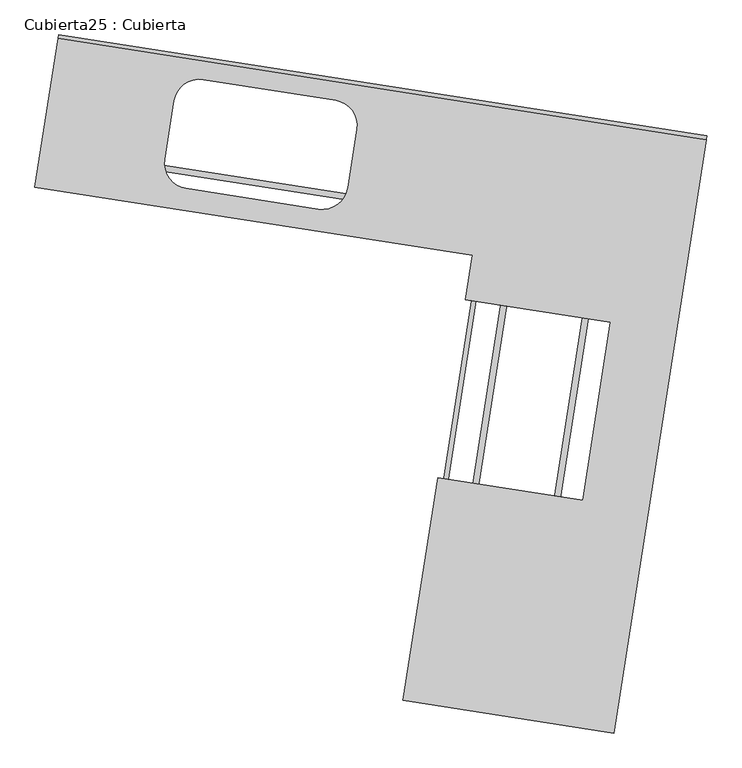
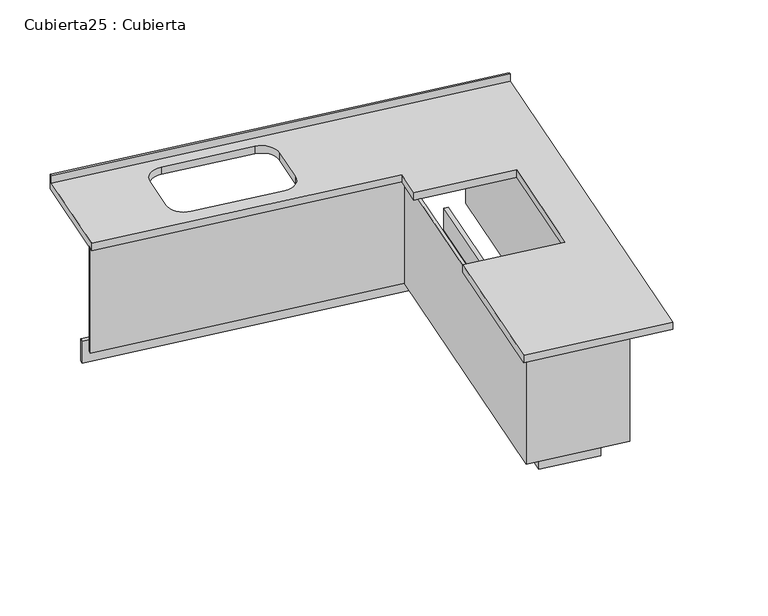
"""IFC4 building model written with IfcOpenShell, lengths in millimetres: furniture geometry, Cubierta25 : Cubierta."""

from ifc_helpers import new_model, si_unit, frame, origin, place, context, project, spatial, polyline, circle_curve, outline, extrude, source, transform, mapped, element, save
from ifc_brep_helpers import plane_surface, revolved_surface, advanced_brep


def cubierta25_cubierta_aeeb99ac(model_context):
    return source(origin(), model_context, "Body", "SolidModel", [
        extrude(outline(polyline([(-30166.3985598, -72366.0541424), (-30536.9245463, -72308.3004382), (-30244.3057771, -70430.9687632), (-32240.205788, -70119.8688056), (-32236.355541, -70095.1670729), (-30215.7537974, -70410.1172775), (-30508.3725666, -72287.4489525), (-30187.2500455, -72337.5021627), (-29823.7867321, -70005.658606), (-29799.0849994, -70009.508853), (-30166.3985598, -72366.0541424)])), frame((0.0, 0.0, 9600.0), z_axis=(0.0, 0.0, 1.0), x_axis=(1.0, 0.0, 0.0)), (0.0, 0.0, 1.0), 150.0),
        extrude(outline(polyline([(-30679.6844447, -72412.5578668), (-30387.0656755, -70535.2261918), (-32259.4570229, -70243.3774691), (-32256.3768253, -70223.6160829), (-30364.2240917, -70518.5450032), (-30656.842861, -72395.8766783), (-30078.8223198, -72485.972457), (-29695.337722, -70025.6798903), (-29675.5763359, -70028.7600879), (-30062.1411312, -72508.8140408), (-30679.6844447, -72412.5578668)])), frame((0.0, 0.0, 9750.0), z_axis=(0.0, 0.0, 1.0), x_axis=(1.0, 0.0, 0.0)), (0.0, 0.0, 1.0), 720.0),
        advanced_brep(
        [(-32263.3072699, -70268.0792018, 10520.0), (-30415.6176552, -70556.0776775, 10520.0), (-30444.8795322, -70743.8108459, 10520.0), (-29832.2765614, -70839.2969711, 10520.0), (-29949.3240696, -71590.2296451, 10520.0), (-30561.9270405, -71494.7435199, 10520.0), (-30708.2364244, -72433.4093524, 10520.0), (-29818.9740513, -72572.0182432, 10520.0), (-29428.5590089, -70067.2625577, 10520.0), (-32165.5109966, -69640.6551913, 10520.0), (-31713.2748637, -70151.3975332, 10520.0), (-31674.7723939, -69904.3802062, 10520.0), (-31552.5699208, -69815.1358474, 10520.0), (-30994.3107619, -69902.1514292, 10520.0), (-30905.0664031, -70024.3539022, 10520.0), (-30943.5688729, -70271.3712292, 10520.0), (-31065.7713459, -70360.615588, 10520.0), (-31624.0305048, -70273.6000062, 10520.0), (-29426.2488607, -70052.441518, 10470.0), (-29818.9740513, -72572.0182432, 10470.0), (-30708.2364244, -72433.4093524, 10470.0), (-30561.9270405, -71494.7435199, 10470.0), (-29949.3240696, -71590.2296451, 10470.0), (-29832.2765614, -70839.2969711, 10470.0), (-30444.8795322, -70743.8108459, 10470.0), (-30415.6176552, -70556.0776775, 10470.0), (-32263.3072699, -70268.0792018, 10470.0), (-32163.2008484, -69625.8341516, 10470.0), (-31713.2748637, -70151.3975332, 10470.0), (-31624.0305048, -70273.6000062, 10470.0), (-31065.7713459, -70360.615588, 10470.0), (-30943.5688729, -70271.3712292, 10470.0), (-30905.0664031, -70024.3539022, 10470.0), (-30994.3107619, -69902.1514292, 10470.0), (-31552.5699208, -69815.1358474, 10470.0), (-31674.7723939, -69904.3802062, 10470.0), (-29426.2488607, -70052.4415181, 10570.0), (-29428.5590089, -70067.2625577, 10570.0), (-32163.2008484, -69625.8341517, 10570.0), (-32165.5109966, -69640.6551913, 10570.0)],
        [
            (0, 1),
            (1, 2),
            (2, 3),
            (3, 4),
            (4, 5),
            (5, 6),
            (6, 7),
            (7, 8),
            (8, 9),
            (9, 0),
            (10, 11),
            (11, 12, circle_curve(frame((-31569.0489779, -69920.8592633, 10520.0), z_axis=(0.0, 0.0, -1.0), x_axis=(0.9880693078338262, -0.15400987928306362, 0.0)), 107.0)),
            (12, 13),
            (13, 14, circle_curve(frame((-31010.789819, -70007.8748451, 10520.0), z_axis=(0.0, 0.0, -1.0), x_axis=(0.9880693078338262, -0.15400987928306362, 0.0)), 107.0)),
            (14, 15),
            (15, 16, circle_curve(frame((-31049.2922888, -70254.8921721, 10520.0), z_axis=(0.0, 0.0, -1.0), x_axis=(0.9880693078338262, -0.15400987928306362, 0.0)), 107.0)),
            (16, 17),
            (17, 10, circle_curve(frame((-31607.5514477, -70167.8765903, 10520.0), z_axis=(0.0, 0.0, -1.0), x_axis=(0.9880693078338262, -0.15400987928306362, 0.0)), 107.0)),
            (18, 19),
            (19, 20),
            (20, 21),
            (21, 22),
            (22, 23),
            (23, 24),
            (24, 25),
            (25, 26),
            (26, 27),
            (27, 18),
            (28, 29, circle_curve(frame((-31607.5514477, -70167.8765903, 10470.0), z_axis=(0.0, 0.0, 1.0), x_axis=(0.9880693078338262, -0.15400987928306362, 0.0)), 107.0)),
            (29, 30),
            (30, 31, circle_curve(frame((-31049.2922888, -70254.8921721, 10470.0), z_axis=(0.0, 0.0, 1.0), x_axis=(0.9880693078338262, -0.15400987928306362, 0.0)), 107.0)),
            (31, 32),
            (32, 33, circle_curve(frame((-31010.789819, -70007.8748451, 10470.0), z_axis=(0.0, 0.0, 1.0), x_axis=(0.9880693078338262, -0.15400987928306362, 0.0)), 107.0)),
            (33, 34),
            (34, 35, circle_curve(frame((-31569.0489779, -69920.8592633, 10470.0), z_axis=(0.0, 0.0, 1.0), x_axis=(0.9880693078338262, -0.15400987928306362, 0.0)), 107.0)),
            (35, 28),
            (36, 37),
            (37, 8),
            (7, 19),
            (18, 36),
            (36, 38),
            (38, 39),
            (39, 37),
            (39, 9),
            (27, 38),
            (26, 0),
            (25, 1),
            (10, 28),
            (35, 11),
            (34, 12),
            (33, 13),
            (32, 14),
            (31, 15),
            (30, 16),
            (29, 17),
            (5, 21),
            (20, 6),
            (24, 2),
            (23, 3),
            (22, 4),
        ],
        [
            plane_surface(frame((-31684.1423176, -69700.5047703, 10520.0), z_axis=(0.0, 0.0, 1.0), x_axis=(-0.9880693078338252, 0.15400987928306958, 0.0))),
            plane_surface(frame((-31684.1423176, -69700.5047703, 10470.0), z_axis=(0.0, 0.0, -1.0), x_axis=(0.9880693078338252, -0.15400987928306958, 0.0))),
            plane_surface(frame((-29426.2488607, -70052.4415181, 9620.0), z_axis=(0.9880693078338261, -0.1540098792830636, 0.0), x_axis=(0.0, 0.0, 1.0))),
            plane_surface(frame((-29426.2488607, -70052.4415181, 10570.0), z_axis=(0.0, 0.0, 1.0), x_axis=(-0.9880693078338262, 0.15400987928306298, 0.0))),
            plane_surface(frame((-29428.5590089, -70067.2625577, 10570.0), z_axis=(-0.15400987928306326, -0.9880693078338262, 0.0), x_axis=(-0.9880693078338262, 0.15400987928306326, 0.0))),
            plane_surface(frame((-29426.2488607, -70052.4415181, 10520.0), z_axis=(0.15400987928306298, 0.9880693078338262, 0.0), x_axis=(-0.9880693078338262, 0.15400987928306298, 0.0))),
            plane_surface(frame((-32163.2008484, -69625.8341517, 9620.0), z_axis=(-0.9880693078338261, 0.1540098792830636, 0.0), x_axis=(0.0, 0.0, 1.0))),
            plane_surface(frame((-32263.3072699, -70268.0792018, 10520.0), z_axis=(-0.15400987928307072, -0.988069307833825, 0.0), x_axis=(0.0, 0.0, -1.0))),
            plane_surface(frame((-31713.2748637, -70151.3975332, 10520.0), z_axis=(0.9880693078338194, -0.1540098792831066, 0.0), x_axis=(0.0, 0.0, -1.0))),
            revolved_surface(polyline([(-31463.32556196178, -69937.33832038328, 10470.0), (-31463.32556196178, -69937.33832038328, 10520.0)]), (-31569.0489779, -69920.8592633, 9620.0), (0.0, 0.0, -1.0000000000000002)),
            plane_surface(frame((-31552.5699208, -69815.1358474, 10520.0), z_axis=(-0.15400987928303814, -0.9880693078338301, 0.0), x_axis=(0.0, 0.0, -1.0))),
            revolved_surface(polyline([(-30905.06640306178, -70024.35390218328, 10470.0), (-30905.06640306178, -70024.35390218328, 10520.0)]), (-31010.789819, -70007.8748451, 9620.0), (0.0, 0.0, -1.0000000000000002)),
            plane_surface(frame((-30905.0664031, -70024.3539022, 10520.0), z_axis=(-0.9880693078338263, 0.15400987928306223, 0.0), x_axis=(0.0, 0.0, -1.0))),
            revolved_surface(polyline([(-30943.56887286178, -70271.37122918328, 10470.0), (-30943.56887286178, -70271.37122918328, 10520.0)]), (-31049.2922888, -70254.8921721, 9620.0), (0.0, 0.0, -1.0000000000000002)),
            plane_surface(frame((-31065.7713459, -70360.615588, 10520.0), z_axis=(0.1540098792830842, 0.9880693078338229, 0.0), x_axis=(0.0, 0.0, -1.0))),
            revolved_surface(polyline([(-31501.82803176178, -70184.35564738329, 10470.0), (-31501.82803176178, -70184.35564738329, 10520.0)]), (-31607.5514477, -70167.8765903, 9620.0), (0.0, 0.0, -1.0000000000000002)),
            plane_surface(frame((-30561.9270405, -71494.7435199, 10520.0), z_axis=(-0.9880693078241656, 0.1540098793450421, 0.0), x_axis=(0.0, 0.0, -1.0))),
            plane_surface(frame((-30708.2364244, -72433.4093524, 10520.0), z_axis=(-0.15400987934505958, -0.9880693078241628, 0.0), x_axis=(0.0, 0.0, -1.0))),
            plane_surface(frame((-30415.6176552, -70556.0776775, 10520.0), z_axis=(-0.9880693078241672, 0.15400987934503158, 0.0), x_axis=(0.0, 0.0, -1.0))),
            plane_surface(frame((-30444.8795322, -70743.8108459, 10520.0), z_axis=(-0.15400987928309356, -0.9880693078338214, 0.0), x_axis=(0.0, 0.0, -1.0))),
            plane_surface(frame((-29832.2765614, -70839.2969711, 10520.0), z_axis=(-0.9880693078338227, 0.15400987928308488, 0.0), x_axis=(0.0, 0.0, -1.0))),
            plane_surface(frame((-29949.3240696, -71590.2296451, 10520.0), z_axis=(0.15400987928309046, 0.988069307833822, 0.0), x_axis=(0.0, 0.0, -1.0))),
        ],
        [
            (0, [[1, 2, 3, 4, 5, 6, 7, 8, 9, 10], [11, 12, 13, 14, 15, 16, 17, 18]]),
            (1, [[19, 20, 21, 22, 23, 24, 25, 26, 27, 28], [29, 30, 31, 32, 33, 34, 35, 36]]),
            (2, [[37, 38, -8, 39, -19, 40]]),
            (3, [[-37, 41, 42, 43]]),
            (4, [[-38, -43, 44, -9]]),
            (5, [[-40, -28, 45, -41]]),
            (6, [[-42, -45, -27, 46, -10, -44]]),
            (7, [[-1, -46, -26, 47]]),
            (8, [[-11, 48, -36, 49]]),
            (9, [[-12, -49, -35, 50]]),
            (10, [[-13, -50, -34, 51]]),
            (11, [[-14, -51, -33, 52]]),
            (12, [[-15, -52, -32, 53]]),
            (13, [[-16, -53, -31, 54]]),
            (14, [[-17, -54, -30, 55]]),
            (15, [[-18, -55, -29, -48]]),
            (16, [[-6, 56, -21, 57]]),
            (17, [[-7, -57, -20, -39]]),
            (18, [[-2, -47, -25, 58]]),
            (19, [[-3, -58, -24, 59]]),
            (20, [[-4, -59, -23, 60]]),
            (21, [[-5, -60, -22, -56]]),
        ],
    ),
    ])


if __name__ == "__main__":
    model = new_model("IFC4")
    model_context = context("Model", 3, world=origin())
    ifc_project = project(units=[si_unit("LENGTHUNIT", "METRE", prefix="MILLI")], contexts=[model_context])
    site = spatial("IfcSite", under=ifc_project)
    building = spatial("IfcBuilding", under=site)
    placement = place(None, origin())
    cubierta25_cubierta_shape = cubierta25_cubierta_aeeb99ac(model_context)
    element("IfcFurniture", 1, ObjectType="Cubierta25 : Cubierta", at=placement, inside=building, context=model_context, shape_type="MappedRepresentation", body=[
        mapped(cubierta25_cubierta_shape, transform((0.0, 0.0, 0.0), x_axis=(1.0, 0.0, 0.0), y_axis=(0.0, 1.0, 0.0), z_axis=(0.0, 0.0, 1.0))),
    ])
    save(model, "model.ifc")
